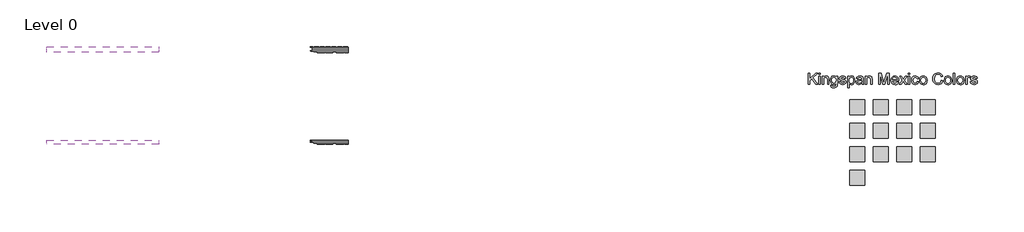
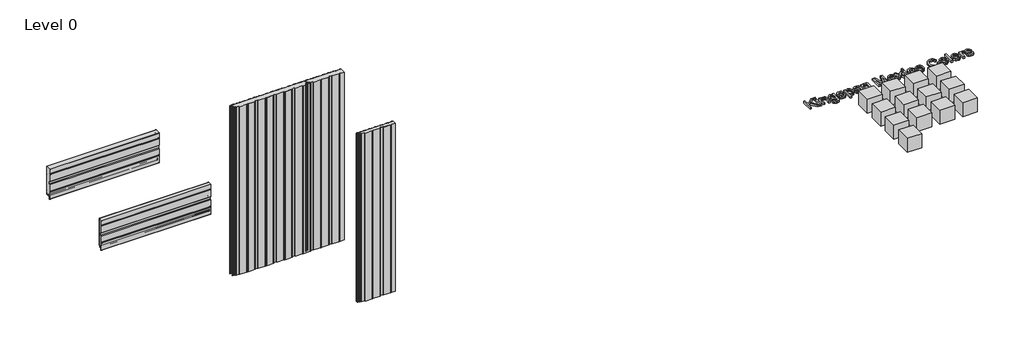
# One storey, incomplete: 14 proxies, 5 plates.
"""IFC4 building model written with IfcOpenShell, lengths in millimetres."""

from ifc_helpers import new_model, si_unit, origin, place, context, project, spatial, transform, mapped, element, save
from components import generic_models_94ed907e, ks_colour_sample_ks_colour_sample_0243efec, hz_050mm_75f4050c, hz_075mm_1ae5ef9f, vt_050mm_d47c93f8, vt_075mm_f3c19188, vt_075mm_35e04bb8, vt_075mm_6c0b980a

model = new_model("IFC4")

# Units and contexts
model_context = context("Model", 3, world=origin())
ifc_project = project(units=[si_unit("LENGTHUNIT", "METRE", prefix="MILLI")], contexts=[model_context])

# Site, building, storey
site = spatial("IfcSite", under=ifc_project)
building = spatial("IfcBuilding", under=site)
storey = spatial("IfcBuildingStorey", under=building, Name="Level 0", Elevation=0.0)

# Proxies
placement = place(None, origin())
generic_models_shape = generic_models_94ed907e(model_context)
element("IfcBuildingElementProxy", 1, Name="KIP-MX_ColourRange_English : KIP-MX_ColourRange_English", ObjectType="KIP-MX_ColourRange_English : KIP-MX_ColourRange_English", at=placement, inside=storey, context=model_context, shape_type="MappedRepresentation", body=[
    mapped(generic_models_shape, transform((1966.0629502, 11802.7493823, 0.0), x_axis=(1.0, 0.0, 0.0), y_axis=(0.0, 1.0, 0.0), z_axis=(0.0, 0.0, 1.0))),
])
ks_colour_sample_ks_colour_sample_shape = ks_colour_sample_ks_colour_sample_0243efec(model_context)
element("IfcBuildingElementProxy", 2, Name="KS_Colour Sample : KS_Colour Sample", ObjectType="KS_Colour Sample : KS_Colour Sample", at=placement, inside=storey, context=model_context, shape_type="MappedRepresentation", body=[
    mapped(ks_colour_sample_ks_colour_sample_shape, transform((1501.0629502, 13781.2299273, 0.0), x_axis=(1.0, 0.0, 0.0), y_axis=(0.0, 1.0, 0.0), z_axis=(0.0, 0.0, 1.0))),
])
element("IfcBuildingElementProxy", 3, Name="KS_Colour Sample : KS_Colour Sample", ObjectType="KS_Colour Sample : KS_Colour Sample", at=placement, inside=storey, context=model_context, shape_type="MappedRepresentation", body=[
    mapped(ks_colour_sample_ks_colour_sample_shape, transform((1811.0629502, 13781.2299273, 0.0), x_axis=(1.0, 0.0, 0.0), y_axis=(0.0, 1.0, 0.0), z_axis=(0.0, 0.0, 1.0))),
])
element("IfcBuildingElementProxy", 4, Name="KS_Colour Sample : KS_Colour Sample", ObjectType="KS_Colour Sample : KS_Colour Sample", at=placement, inside=storey, context=model_context, shape_type="MappedRepresentation", body=[
    mapped(ks_colour_sample_ks_colour_sample_shape, transform((2121.0629502, 13781.2299273, 0.0), x_axis=(1.0, 0.0, 0.0), y_axis=(0.0, 1.0, 0.0), z_axis=(0.0, 0.0, 1.0))),
])
element("IfcBuildingElementProxy", 5, Name="KS_Colour Sample : KS_Colour Sample", ObjectType="KS_Colour Sample : KS_Colour Sample", at=placement, inside=storey, context=model_context, shape_type="MappedRepresentation", body=[
    mapped(ks_colour_sample_ks_colour_sample_shape, transform((2431.0629502, 13781.2299273, 0.0), x_axis=(1.0, 0.0, 0.0), y_axis=(0.0, 1.0, 0.0), z_axis=(0.0, 0.0, 1.0))),
])
element("IfcBuildingElementProxy", 6, Name="KS_Colour Sample : KS_Colour Sample", ObjectType="KS_Colour Sample : KS_Colour Sample", at=placement, inside=storey, context=model_context, shape_type="MappedRepresentation", body=[
    mapped(ks_colour_sample_ks_colour_sample_shape, transform((1501.0629502, 13471.2299273, 0.0), x_axis=(1.0, 0.0, 0.0), y_axis=(0.0, 1.0, 0.0), z_axis=(0.0, 0.0, 1.0))),
])
element("IfcBuildingElementProxy", 7, Name="KS_Colour Sample : KS_Colour Sample", ObjectType="KS_Colour Sample : KS_Colour Sample", at=placement, inside=storey, context=model_context, shape_type="MappedRepresentation", body=[
    mapped(ks_colour_sample_ks_colour_sample_shape, transform((1811.0629502, 13471.2299273, 0.0), x_axis=(1.0, 0.0, 0.0), y_axis=(0.0, 1.0, 0.0), z_axis=(0.0, 0.0, 1.0))),
])
element("IfcBuildingElementProxy", 8, Name="KS_Colour Sample : KS_Colour Sample", ObjectType="KS_Colour Sample : KS_Colour Sample", at=placement, inside=storey, context=model_context, shape_type="MappedRepresentation", body=[
    mapped(ks_colour_sample_ks_colour_sample_shape, transform((2121.0629502, 13471.2299273, 0.0), x_axis=(1.0, 0.0, 0.0), y_axis=(0.0, 1.0, 0.0), z_axis=(0.0, 0.0, 1.0))),
])
element("IfcBuildingElementProxy", 9, Name="KS_Colour Sample : KS_Colour Sample", ObjectType="KS_Colour Sample : KS_Colour Sample", at=placement, inside=storey, context=model_context, shape_type="MappedRepresentation", body=[
    mapped(ks_colour_sample_ks_colour_sample_shape, transform((2431.0629502, 13471.2299273, 0.0), x_axis=(1.0, 0.0, 0.0), y_axis=(0.0, 1.0, 0.0), z_axis=(0.0, 0.0, 1.0))),
])
element("IfcBuildingElementProxy", 10, Name="KS_Colour Sample : KS_Colour Sample", ObjectType="KS_Colour Sample : KS_Colour Sample", at=placement, inside=storey, context=model_context, shape_type="MappedRepresentation", body=[
    mapped(ks_colour_sample_ks_colour_sample_shape, transform((1501.0629502, 13161.2299273, 0.0), x_axis=(1.0, 0.0, 0.0), y_axis=(0.0, 1.0, 0.0), z_axis=(0.0, 0.0, 1.0))),
])
element("IfcBuildingElementProxy", 11, Name="KS_Colour Sample : KS_Colour Sample", ObjectType="KS_Colour Sample : KS_Colour Sample", at=placement, inside=storey, context=model_context, shape_type="MappedRepresentation", body=[
    mapped(ks_colour_sample_ks_colour_sample_shape, transform((1811.0629502, 13161.2299273, 0.0), x_axis=(1.0, 0.0, 0.0), y_axis=(0.0, 1.0, 0.0), z_axis=(0.0, 0.0, 1.0))),
])
element("IfcBuildingElementProxy", 12, Name="KS_Colour Sample : KS_Colour Sample", ObjectType="KS_Colour Sample : KS_Colour Sample", at=placement, inside=storey, context=model_context, shape_type="MappedRepresentation", body=[
    mapped(ks_colour_sample_ks_colour_sample_shape, transform((2121.0629502, 13161.2299273, 0.0), x_axis=(1.0, 0.0, 0.0), y_axis=(0.0, 1.0, 0.0), z_axis=(0.0, 0.0, 1.0))),
])
element("IfcBuildingElementProxy", 13, Name="KS_Colour Sample : KS_Colour Sample", ObjectType="KS_Colour Sample : KS_Colour Sample", at=placement, inside=storey, context=model_context, shape_type="MappedRepresentation", body=[
    mapped(ks_colour_sample_ks_colour_sample_shape, transform((2431.0629502, 13161.2299273, 0.0), x_axis=(1.0, 0.0, 0.0), y_axis=(0.0, 1.0, 0.0), z_axis=(0.0, 0.0, 1.0))),
])
element("IfcBuildingElementProxy", 14, Name="KS_Colour Sample : KS_Colour Sample", ObjectType="KS_Colour Sample : KS_Colour Sample", at=placement, inside=storey, context=model_context, shape_type="MappedRepresentation", body=[
    mapped(ks_colour_sample_ks_colour_sample_shape, transform((1501.0629502, 12851.2299273, 0.0), x_axis=(1.0, 0.0, 0.0), y_axis=(0.0, 1.0, 0.0), z_axis=(0.0, 0.0, 1.0))),
])

# Plates
hz_050mm_shape = hz_050mm_75f4050c(model_context)
element("IfcPlate", 15, ObjectType="KIP-MEX-KW-R19-CP-Hz-KW7_SL : Hz 050mm", at=placement, inside=storey, context=model_context, shape_type="MappedRepresentation", body=[
    mapped(hz_050mm_shape, transform((-8438.7250935, 13346.6881223, 2000.0), x_axis=(1.0, 0.0, 0.0), y_axis=(0.0, 1.0, 0.0), z_axis=(0.0, 0.0, 1.0))),
])
hz_075mm_shape = hz_075mm_1ae5ef9f(model_context)
element("IfcPlate", 16, ObjectType="KIP-MEX-KW-R19-CP-Hz-KW7_SL : Hz 075mm", at=placement, inside=storey, context=model_context, shape_type="MappedRepresentation", body=[
    mapped(hz_075mm_shape, transform((-8438.7250935, 14580.6646856, 2000.0), x_axis=(1.0, 0.0, 0.0), y_axis=(0.0, 1.0, 0.0), z_axis=(0.0, 0.0, 1.0))),
])
vt_050mm_shape = vt_050mm_d47c93f8(model_context)
element("IfcPlate", 17, ObjectType="KIP-MEX-KW-R19-CP-Vt-KW7_SL : Vt 050mm", at=placement, inside=storey, context=model_context, shape_type="MappedRepresentation", body=[
    mapped(vt_050mm_shape, transform((-5438.9413834, 13346.6881223, 0.0), x_axis=(1.0, 0.0, 0.0), y_axis=(0.0, 1.0, 0.0), z_axis=(0.0, 0.0, 1.0))),
])
vt_075mm_shape = vt_075mm_f3c19188(model_context)
vt_075mm_2_shape = vt_075mm_35e04bb8(model_context)
element("IfcPlate", 18, ObjectType="KIP-MEX-KW-R19-CP-Vt-KW7_SL : Vt 075mm", at=placement, inside=storey, context=model_context, shape_type="MappedRepresentation", body=[
    mapped(vt_075mm_shape, transform((-6178.9413834, 14575.4926205, 0.0), x_axis=(1.0, 0.0, 0.0), y_axis=(0.0, 1.0, 0.0), z_axis=(0.0, 0.0, 1.0))),
    mapped(vt_075mm_2_shape, transform((-6178.9413834, 14575.4926205, 0.0), x_axis=(1.0, 0.0, 0.0), y_axis=(0.0, 1.0, 0.0), z_axis=(0.0, 0.0, 1.0))),
])
vt_075mm_3_shape = vt_075mm_6c0b980a(model_context)
element("IfcPlate", 19, ObjectType="KIP-MEX-KW-R19-CP-Vt-KW7_SL : Vt 075mm", at=placement, inside=storey, context=model_context, shape_type="MappedRepresentation", body=[
    mapped(vt_075mm_3_shape, transform((-5438.9413834, 14575.4926205, 0.0), x_axis=(1.0, 0.0, 0.0), y_axis=(0.0, 1.0, 0.0), z_axis=(0.0, 0.0, 1.0))),
])

save(model, "model.ifc")
